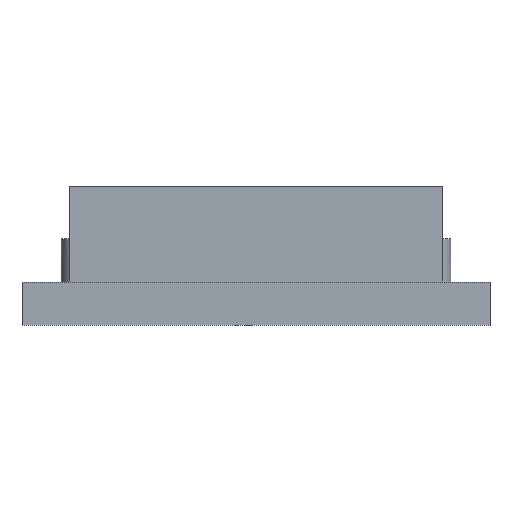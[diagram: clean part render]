
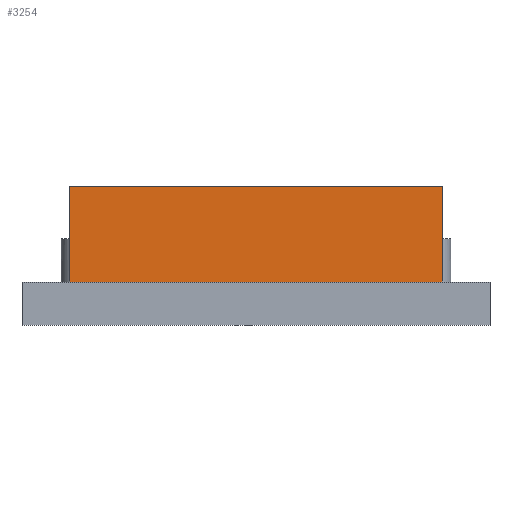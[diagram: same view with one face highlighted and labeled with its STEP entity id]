
A CAD part, front view. The second image highlights one B-rep face of the part: STEP entity #3254.
In plain terms, the highlighted planar face has unit normal (0, -1, 0).
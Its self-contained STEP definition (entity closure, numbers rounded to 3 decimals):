
#1050 = PLANE('',#1051);
#1051 = AXIS2_PLACEMENT_3D('',#1052,#1053,#1054);
#1052 = CARTESIAN_POINT('',(-43.,-38.,32.));
#1053 = DIRECTION('',(0.,0.,1.));
#1054 = DIRECTION('',(1.,0.,0.));
#1271 = VERTEX_POINT('',#1272);
#1272 = CARTESIAN_POINT('',(-43.,-38.,32.));
#1288 = PLANE('',#1289);
#1289 = AXIS2_PLACEMENT_3D('',#1290,#1291,#1292);
#1290 = CARTESIAN_POINT('',(-43.,-38.,10.));
#1291 = DIRECTION('',(1.,0.,0.));
#1292 = DIRECTION('',(0.,0.,1.));
#1300 = EDGE_CURVE('',#1271,#1301,#1303,.T.);
#1301 = VERTEX_POINT('',#1302);
#1302 = CARTESIAN_POINT('',(43.,-38.,32.));
#1303 = SURFACE_CURVE('',#1304,(#1308,#1315),.PCURVE_S1.);
#1304 = LINE('',#1305,#1306);
#1305 = CARTESIAN_POINT('',(-43.,-38.,32.));
#1306 = VECTOR('',#1307,1.);
#1307 = DIRECTION('',(1.,0.,0.));
#1308 = PCURVE('',#1050,#1309);
#1309 = DEFINITIONAL_REPRESENTATION('',(#1310),#1314);
#1310 = LINE('',#1311,#1312);
#1311 = CARTESIAN_POINT('',(0.,0.));
#1312 = VECTOR('',#1313,1.);
#1313 = DIRECTION('',(1.,0.));
#1314 = ( GEOMETRIC_REPRESENTATION_CONTEXT(2) 
PARAMETRIC_REPRESENTATION_CONTEXT() REPRESENTATION_CONTEXT('2D SPACE',''
  ) );
#1315 = PCURVE('',#1316,#1321);
#1316 = PLANE('',#1317);
#1317 = AXIS2_PLACEMENT_3D('',#1318,#1319,#1320);
#1318 = CARTESIAN_POINT('',(-43.,-38.,10.));
#1319 = DIRECTION('',(0.,1.,0.));
#1320 = DIRECTION('',(0.,0.,1.));
#1321 = DEFINITIONAL_REPRESENTATION('',(#1322),#1326);
#1322 = LINE('',#1323,#1324);
#1323 = CARTESIAN_POINT('',(22.,0.));
#1324 = VECTOR('',#1325,1.);
#1325 = DIRECTION('',(0.,1.));
#1326 = ( GEOMETRIC_REPRESENTATION_CONTEXT(2) 
PARAMETRIC_REPRESENTATION_CONTEXT() REPRESENTATION_CONTEXT('2D SPACE',''
  ) );
#1344 = PLANE('',#1345);
#1345 = AXIS2_PLACEMENT_3D('',#1346,#1347,#1348);
#1346 = CARTESIAN_POINT('',(43.,-38.,10.));
#1347 = DIRECTION('',(1.,0.,0.));
#1348 = DIRECTION('',(0.,0.,1.));
#1473 = EDGE_CURVE('',#1474,#1301,#1476,.T.);
#1474 = VERTEX_POINT('',#1475);
#1475 = CARTESIAN_POINT('',(43.,-38.,10.));
#1476 = SURFACE_CURVE('',#1477,(#1481,#1488),.PCURVE_S1.);
#1477 = LINE('',#1478,#1479);
#1478 = CARTESIAN_POINT('',(43.,-38.,10.));
#1479 = VECTOR('',#1480,1.);
#1480 = DIRECTION('',(0.,0.,1.));
#1481 = PCURVE('',#1344,#1482);
#1482 = DEFINITIONAL_REPRESENTATION('',(#1483),#1487);
#1483 = LINE('',#1484,#1485);
#1484 = CARTESIAN_POINT('',(0.,0.));
#1485 = VECTOR('',#1486,1.);
#1486 = DIRECTION('',(1.,0.));
#1487 = ( GEOMETRIC_REPRESENTATION_CONTEXT(2) 
PARAMETRIC_REPRESENTATION_CONTEXT() REPRESENTATION_CONTEXT('2D SPACE',''
  ) );
#1488 = PCURVE('',#1316,#1489);
#1489 = DEFINITIONAL_REPRESENTATION('',(#1490),#1494);
#1490 = LINE('',#1491,#1492);
#1491 = CARTESIAN_POINT('',(0.,86.));
#1492 = VECTOR('',#1493,1.);
#1493 = DIRECTION('',(1.,0.));
#1494 = ( GEOMETRIC_REPRESENTATION_CONTEXT(2) 
PARAMETRIC_REPRESENTATION_CONTEXT() REPRESENTATION_CONTEXT('2D SPACE',''
  ) );
#1512 = PLANE('',#1513);
#1513 = AXIS2_PLACEMENT_3D('',#1514,#1515,#1516);
#1514 = CARTESIAN_POINT('',(-54.,-44.,10.));
#1515 = DIRECTION('',(0.,0.,1.));
#1516 = DIRECTION('',(1.,0.,0.));
#1805 = EDGE_CURVE('',#1806,#1474,#1808,.T.);
#1806 = VERTEX_POINT('',#1807);
#1807 = CARTESIAN_POINT('',(-43.,-38.,10.));
#1808 = SURFACE_CURVE('',#1809,(#1813,#1820),.PCURVE_S1.);
#1809 = LINE('',#1810,#1811);
#1810 = CARTESIAN_POINT('',(-43.,-38.,10.));
#1811 = VECTOR('',#1812,1.);
#1812 = DIRECTION('',(1.,0.,0.));
#1813 = PCURVE('',#1512,#1814);
#1814 = DEFINITIONAL_REPRESENTATION('',(#1815),#1819);
#1815 = LINE('',#1816,#1817);
#1816 = CARTESIAN_POINT('',(11.,6.));
#1817 = VECTOR('',#1818,1.);
#1818 = DIRECTION('',(1.,0.));
#1819 = ( GEOMETRIC_REPRESENTATION_CONTEXT(2) 
PARAMETRIC_REPRESENTATION_CONTEXT() REPRESENTATION_CONTEXT('2D SPACE',''
  ) );
#1820 = PCURVE('',#1316,#1821);
#1821 = DEFINITIONAL_REPRESENTATION('',(#1822),#1826);
#1822 = LINE('',#1823,#1824);
#1823 = CARTESIAN_POINT('',(0.,0.));
#1824 = VECTOR('',#1825,1.);
#1825 = DIRECTION('',(0.,1.));
#1826 = ( GEOMETRIC_REPRESENTATION_CONTEXT(2) 
PARAMETRIC_REPRESENTATION_CONTEXT() REPRESENTATION_CONTEXT('2D SPACE',''
  ) );
#3254 = ADVANCED_FACE('',(#3255),#1316,.F.);
#3255 = FACE_BOUND('',#3256,.F.);
#3256 = EDGE_LOOP('',(#3257,#3258,#3279,#3280));
#3257 = ORIENTED_EDGE('',*,*,#1805,.F.);
#3258 = ORIENTED_EDGE('',*,*,#3259,.T.);
#3259 = EDGE_CURVE('',#1806,#1271,#3260,.T.);
#3260 = SURFACE_CURVE('',#3261,(#3265,#3272),.PCURVE_S1.);
#3261 = LINE('',#3262,#3263);
#3262 = CARTESIAN_POINT('',(-43.,-38.,10.));
#3263 = VECTOR('',#3264,1.);
#3264 = DIRECTION('',(0.,0.,1.));
#3265 = PCURVE('',#1316,#3266);
#3266 = DEFINITIONAL_REPRESENTATION('',(#3267),#3271);
#3267 = LINE('',#3268,#3269);
#3268 = CARTESIAN_POINT('',(0.,0.));
#3269 = VECTOR('',#3270,1.);
#3270 = DIRECTION('',(1.,0.));
#3271 = ( GEOMETRIC_REPRESENTATION_CONTEXT(2) 
PARAMETRIC_REPRESENTATION_CONTEXT() REPRESENTATION_CONTEXT('2D SPACE',''
  ) );
#3272 = PCURVE('',#1288,#3273);
#3273 = DEFINITIONAL_REPRESENTATION('',(#3274),#3278);
#3274 = LINE('',#3275,#3276);
#3275 = CARTESIAN_POINT('',(0.,0.));
#3276 = VECTOR('',#3277,1.);
#3277 = DIRECTION('',(1.,0.));
#3278 = ( GEOMETRIC_REPRESENTATION_CONTEXT(2) 
PARAMETRIC_REPRESENTATION_CONTEXT() REPRESENTATION_CONTEXT('2D SPACE',''
  ) );
#3279 = ORIENTED_EDGE('',*,*,#1300,.T.);
#3280 = ORIENTED_EDGE('',*,*,#1473,.F.);
